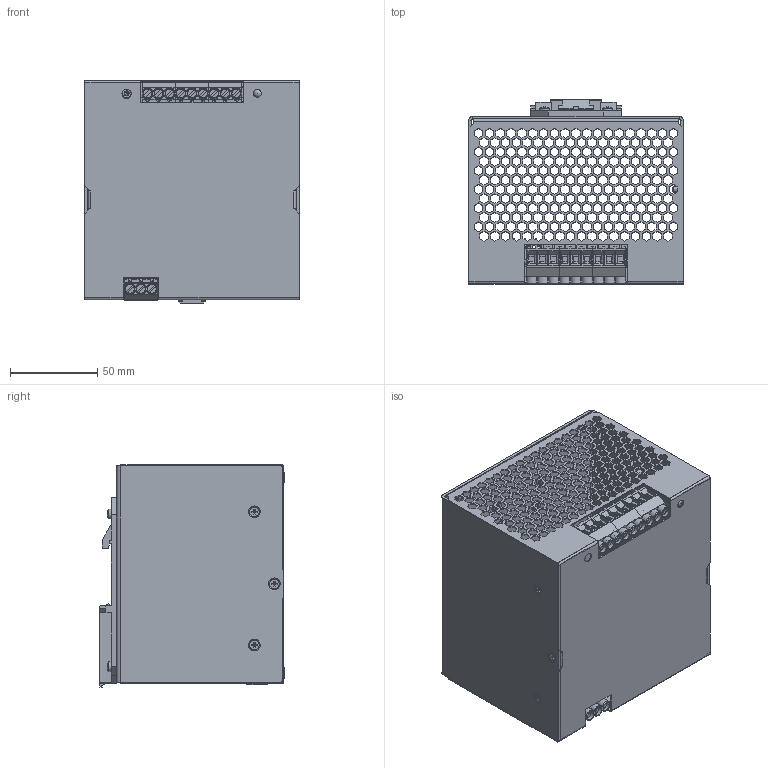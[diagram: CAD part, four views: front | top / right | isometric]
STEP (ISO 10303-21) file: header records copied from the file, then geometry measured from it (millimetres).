
FILE_DESCRIPTION(/* description */ ('STEP AP242','CAx-IF Rec.Pracs.---Representation and Presentation of Product Manufacturing Information (PMI)---4.0---2014-10-13','CAx-IF Rec.Pracs.---3D Tessellated Geometry---0.4---2014-09-14','2;1'),/* implementation_level */ '2;1');
FILE_NAME(/* name */ '68af248ca769483776662406',/* time_stamp */ '2025-08-27T15:30:23Z',/* author */ (''),/* organization */ (''),/* preprocessor_version */ 'ST-DEVELOPER v20',/* originating_system */ 'ONSHAPE BY PTC INC, 1.202',/* authorisation */ ' ');
FILE_SCHEMA (('AP242_MANAGED_MODEL_BASED_3D_ENGINEERING_MIM_LF { 1 0 10303 442 1 1 4 }'));
Products named in the file (25): SD-077; PH Pan head screw M3x0.50 x 6; PH Countersunk flat head screw M3x0.5 x 6; 50mm DIN Clip <1>; UTA_FUSSRIEGEL-48_H.Select__00425654; UTA_107_PLATTE_H.Select__00425656; H-182 <1>; PEM SMPS-M3; Front Housing; PCB-028 - Rev E - 200W DC/DC Converter PCB Layout <1>; 2023_06_14_11_36_17_0948; 2023_06_14_11_36_17_0995; 2023_06_14_11_36_18_0057; 2023_06_14_11_36_17_0963; 2023_06_14_11_36_18_0010; 2023_06_14_11_36_18_0073; 2023_06_14_11_36_17_0979; 2023_06_14_11_36_18_0026; 2023_06_14_11_36_17_0885; 2023_06_14_11_36_18_0042; WP7113; 33756-70405; H-052 <1>; PEM CLS-M3-2  ; Rear Housing
Assembly tree (79 placements, depth 3):
  SD-077
    PH Pan head screw M3x0.50 x 6  x4
    PH Countersunk flat head screw M3x0.5 x 6  x12
    50mm DIN Clip <1>
      UTA_FUSSRIEGEL-48_H.Select__00425654
      UTA_107_PLATTE_H.Select__00425656
    H-182 <1>
      PEM SMPS-M3  x6
      Front Housing
    PCB-028 - Rev E - 200W DC/DC Converter PCB Layout <1>
      2023_06_14_11_36_17_0948  x4
      2023_06_14_11_36_17_0995  x4
      2023_06_14_11_36_18_0057  x4
      2023_06_14_11_36_17_0963  x4
      2023_06_14_11_36_18_0010  x4
      2023_06_14_11_36_18_0073  x4
      2023_06_14_11_36_17_0979  x4
      2023_06_14_11_36_18_0026  x4
      2023_06_14_11_36_17_0885  x4
      2023_06_14_11_36_18_0042  x4
      WP7113
      33756-70405
    H-052 <1>
      PEM CLS-M3-2    x7
      Rear Housing
Bounding box: 122.68 x 105.74 x 127.65 mm (x, y, z)
Volume: 111669.8 mm3; surface area: 180165.2 mm2
Topology: 75 solids, 76 shells, 6695 faces, 19055 edges, 12602 vertices
Faces by surface type: plane 5980, cylinder 487, cone 131, torus 54, bspline 38, sphere 5
Full cylindrical faces by diameter (mm): 0.457 x3, 1.27 x1, 2.383 x1, 2.421 x1, 2.459 x13, 3 x52, 3.3 x13, 3.581 x1, 4.2 x7, 4.22 x19, 4.572 x1, 4.953 x1, 5 x13, 5.2 x12, 5.334 x1, 5.5 x12, 5.6 x10, 6.35 x7
Entity records: 130624 total; most frequent: CARTESIAN_POINT 24339, ORIENTED_EDGE 22268, DIRECTION 19301, EDGE_CURVE 11134, LINE 10555, VECTOR 10555, VERTEX_POINT 7448, FACE_BOUND 5002
